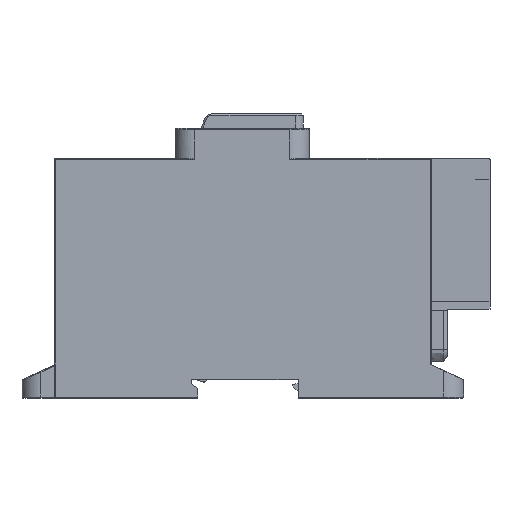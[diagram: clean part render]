
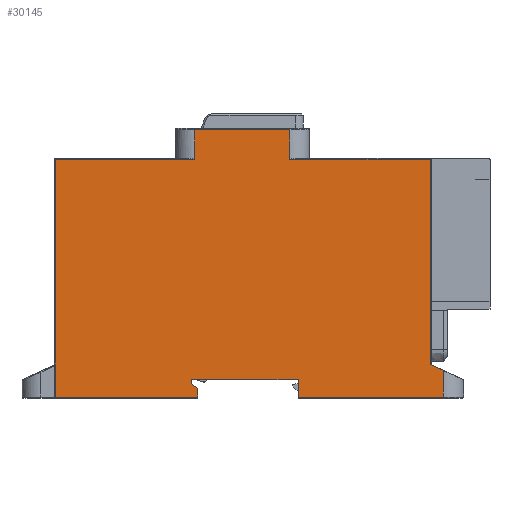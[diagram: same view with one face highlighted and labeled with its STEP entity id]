
A CAD part, left-side view. The second image highlights one B-rep face of the part: STEP entity #30145.
In plain terms, the highlighted planar face has unit normal (-1, 0, 0).
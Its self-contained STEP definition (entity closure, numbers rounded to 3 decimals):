
#427=DIRECTION('',(0.,-1.,0.));
#428=VECTOR('',#427,47.2);
#429=CARTESIAN_POINT('',(0.,144.2,0.3));
#430=LINE('',#429,#428);
#456=DIRECTION('',(0.,0.005,1.));
#457=VECTOR('',#456,5.987);
#458=CARTESIAN_POINT('',(0.,63.62,
0.3));
#459=LINE('',#458,#457);
#460=DIRECTION('',(0.,1.,0.));
#461=VECTOR('',#460,35.497);
#462=CARTESIAN_POINT('',(0.,63.652,6.287));
#463=LINE('',#462,#461);
#464=DIRECTION('',(0.,0.005,-1.));
#465=VECTOR('',#464,1.595);
#466=CARTESIAN_POINT('',(0.,99.148,6.3));
#467=LINE('',#466,#465);
#468=DIRECTION('',(0.,-0.819,-0.574));
#469=VECTOR('',#468,2.633);
#470=CARTESIAN_POINT('',(0.,99.157,4.705));
#471=LINE('',#470,#469);
#472=DIRECTION('',(0.,0.,-1.));
#473=VECTOR('',#472,2.895);
#474=CARTESIAN_POINT('',(0.,97.,3.195));
#475=LINE('',#474,#473);
#476=DIRECTION('',(0.,0.,1.));
#477=VECTOR('',#476,9.801);
#478=CARTESIAN_POINT('',(0.,97.977,79.199));
#479=LINE('',#478,#477);
#480=DIRECTION('',(0.,-1.,0.));
#481=VECTOR('',#480,31.599);
#482=CARTESIAN_POINT('',(0.,97.977,89.));
#483=LINE('',#482,#481);
#484=DIRECTION('',(0.,0.013,-1.));
#485=VECTOR('',#484,9.802);
#486=CARTESIAN_POINT('',(0.,66.378,89.));
#487=LINE('',#486,#485);
#488=DIRECTION('',(0.,-0.907,-0.42));
#489=VECTOR('',#488,4.738);
#490=CARTESIAN_POINT('',(0.,19.8,11.139));
#491=LINE('',#490,#489);
#492=DIRECTION('',(0.,-1.,0.));
#493=VECTOR('',#492,48.12);
#494=CARTESIAN_POINT('',(0.,63.62,
0.3));
#495=LINE('',#494,#493);
#512=CARTESIAN_POINT('',(0.,63.652,6.287));
#1022=DIRECTION('',(0.,0.,1.));
#1023=VECTOR('',#1022,8.848);
#1024=CARTESIAN_POINT('',(0.,15.5,0.3));
#1025=LINE('',#1024,#1023);
#1045=CARTESIAN_POINT('',(0.,15.5,9.148));
#6378=DIRECTION('',(0.,0.,1.));
#6379=VECTOR('',#6378,68.06);
#6380=CARTESIAN_POINT('',(0.,19.8,11.139));
#6381=LINE('',#6380,#6379);
#6390=DIRECTION('',(0.,1.,0.));
#6391=VECTOR('',#6390,46.704);
#6392=CARTESIAN_POINT('',(0.,19.8,79.199));
#6393=LINE('',#6392,#6391);
#6399=CARTESIAN_POINT('',(0.,66.504,79.199));
#6401=CARTESIAN_POINT('',(0.,66.378,89.));
#6455=DIRECTION('',(0.,1.,0.));
#6456=VECTOR('',#6455,46.223);
#6457=CARTESIAN_POINT('',(0.,97.977,79.199));
#6458=LINE('',#6457,#6456);
#7564=CARTESIAN_POINT('',(0.,99.148,6.3));
#16873=DIRECTION('',(0.,0.,-1.));
#16874=VECTOR('',#16873,78.899);
#16875=CARTESIAN_POINT('',(0.,144.2,79.199));
#16876=LINE('',#16875,#16874);
#23885=VERTEX_POINT('',#1045);
#23886=CARTESIAN_POINT('',(0.,19.8,11.139));
#23887=VERTEX_POINT('',#23886);
#25873=VERTEX_POINT('',#512);
#25874=CARTESIAN_POINT('',(0.,63.62,
0.3));
#25875=VERTEX_POINT('',#25874);
#26060=VERTEX_POINT('',#7564);
#26075=CARTESIAN_POINT('',(0.,99.157,
4.705));
#26076=VERTEX_POINT('',#26075);
#26083=CARTESIAN_POINT('',(0.,97.,3.195));
#26084=VERTEX_POINT('',#26083);
#26109=CARTESIAN_POINT('',(0.,97.,0.3));
#26110=VERTEX_POINT('',#26109);
#28159=CARTESIAN_POINT('',(0.,144.2,0.3));
#28160=VERTEX_POINT('',#28159);
#28161=CARTESIAN_POINT('',(0.,144.2,79.199));
#28162=VERTEX_POINT('',#28161);
#28222=VERTEX_POINT('',#6401);
#28225=VERTEX_POINT('',#6399);
#28226=CARTESIAN_POINT('',(0.,19.8,79.199));
#28227=VERTEX_POINT('',#28226);
#28228=CARTESIAN_POINT('',(0.,15.5,0.3));
#28229=VERTEX_POINT('',#28228);
#28230=CARTESIAN_POINT('',(0.,97.977,79.199));
#28231=VERTEX_POINT('',#28230);
#28232=CARTESIAN_POINT('',(0.,97.977,89.));
#28233=VERTEX_POINT('',#28232);
#30108=CARTESIAN_POINT('',(0.,156.,0.));
#30109=DIRECTION('',(-1.,0.,0.));
#30110=DIRECTION('',(0.,-1.,0.));
#30111=AXIS2_PLACEMENT_3D('',#30108,#30109,#30110);
#30112=PLANE('',#30111);
#30114=ORIENTED_EDGE('',*,*,#30113,.F.);
#30116=ORIENTED_EDGE('',*,*,#30115,.T.);
#30118=ORIENTED_EDGE('',*,*,#30117,.T.);
#30120=ORIENTED_EDGE('',*,*,#30119,.T.);
#30122=ORIENTED_EDGE('',*,*,#30121,.T.);
#30123=ORIENTED_EDGE('',*,*,#30091,.T.);
#30124=ORIENTED_EDGE('',*,*,#30080,.F.);
#30126=ORIENTED_EDGE('',*,*,#30125,.F.);
#30128=ORIENTED_EDGE('',*,*,#30127,.F.);
#30130=ORIENTED_EDGE('',*,*,#30129,.T.);
#30132=ORIENTED_EDGE('',*,*,#30131,.T.);
#30134=ORIENTED_EDGE('',*,*,#30133,.T.);
#30136=ORIENTED_EDGE('',*,*,#30135,.F.);
#30138=ORIENTED_EDGE('',*,*,#30137,.F.);
#30140=ORIENTED_EDGE('',*,*,#30139,.T.);
#30142=ORIENTED_EDGE('',*,*,#30141,.F.);
#30143=EDGE_LOOP('',(#30114,#30116,#30118,#30120,#30122,#30123,#30124,#30126,
#30128,#30130,#30132,#30134,#30136,#30138,#30140,#30142));
#30144=FACE_OUTER_BOUND('',#30143,.F.);
#30145=ADVANCED_FACE('',(#30144),#30112,.T.);
#30080=EDGE_CURVE('',#28160,#26110,#430,.T.);
#30091=EDGE_CURVE('',#26084,#26110,#475,.T.);
#30113=EDGE_CURVE('',#25875,#28229,#495,.T.);
#30115=EDGE_CURVE('',#25875,#25873,#459,.T.);
#30117=EDGE_CURVE('',#25873,#26060,#463,.T.);
#30119=EDGE_CURVE('',#26060,#26076,#467,.T.);
#30121=EDGE_CURVE('',#26076,#26084,#471,.T.);
#30125=EDGE_CURVE('',#28162,#28160,#16876,.T.);
#30127=EDGE_CURVE('',#28231,#28162,#6458,.T.);
#30129=EDGE_CURVE('',#28231,#28233,#479,.T.);
#30131=EDGE_CURVE('',#28233,#28222,#483,.T.);
#30133=EDGE_CURVE('',#28222,#28225,#487,.T.);
#30135=EDGE_CURVE('',#28227,#28225,#6393,.T.);
#30137=EDGE_CURVE('',#23887,#28227,#6381,.T.);
#30139=EDGE_CURVE('',#23887,#23885,#491,.T.);
#30141=EDGE_CURVE('',#28229,#23885,#1025,.T.);
